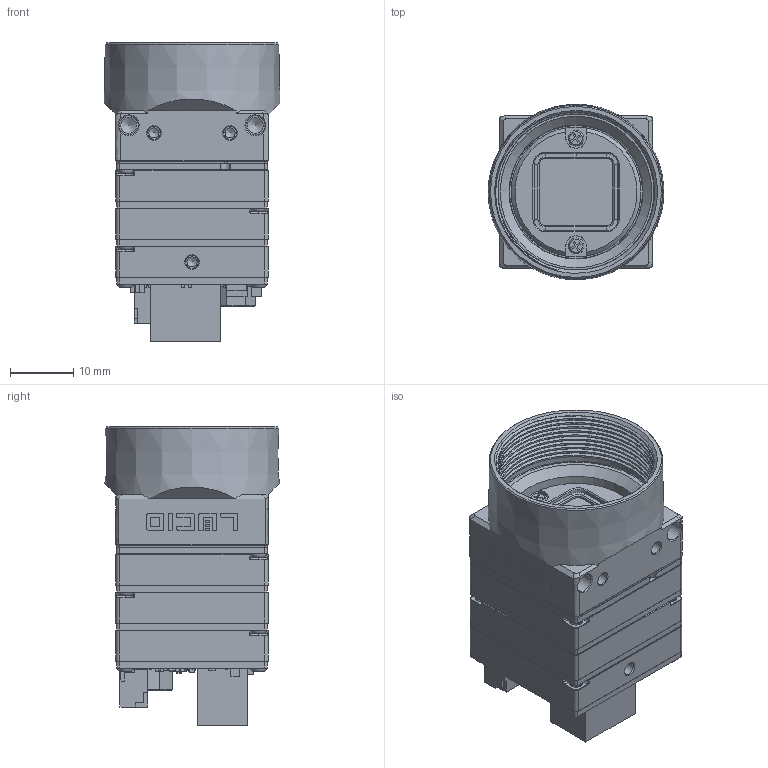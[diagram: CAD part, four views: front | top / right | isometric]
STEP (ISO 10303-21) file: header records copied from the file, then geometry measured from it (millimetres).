
FILE_DESCRIPTION (( 'STEP AP203' ), '1' );
FILE_NAME ('478-848-A_PHX24 C-MOUNT-IX_CUBE.STEP', '2018-09-22T03:26:56', ( '' ), ( '' ), 'SwSTEP 2.0', 'SolidWorks 2017', '' );
FILE_SCHEMA (( 'CONFIG_CONTROL_DESIGN' ));
Products named in the file (1): 478-848-A_PHX24 C-MOUNT-IX_CUBE
Bounding box: 27.71 x 27.67 x 47.05 mm (x, y, z)
Volume: 8719.2 mm3; surface area: 17810.7 mm2
Topology: 69 solids, 69 shells, 4030 faces, 10281 edges, 6325 vertices
Faces by surface type: plane 2357, cylinder 947, bspline 286, cone 250, torus 124, sphere 66
Full cylindrical faces by diameter (mm): 1 x2, 1.05 x1, 1.1 x2, 1.2 x1, 1.35 x6, 1.6 x5, 1.7 x24, 1.8 x4, 1.9 x22, 2 x5, 2.5 x4, 3 x4, 25.5 x1
Entity records: 125860 total; most frequent: CARTESIAN_POINT 31368, ORIENTED_EDGE 19808, DIRECTION 18807, EDGE_CURVE 9904, VECTOR 6975, LINE 6975, VERTEX_POINT 6289, AXIS2_PLACEMENT_3D 5916
